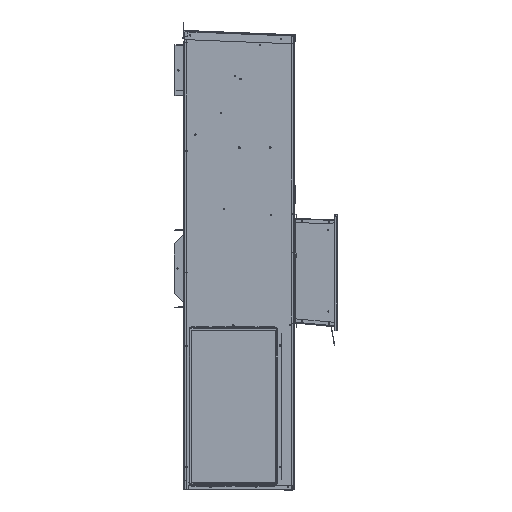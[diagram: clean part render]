
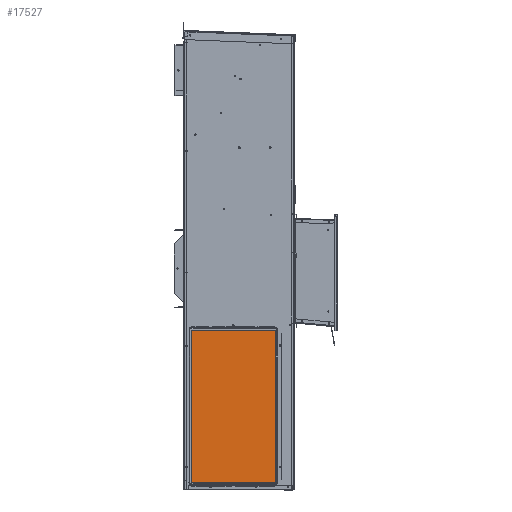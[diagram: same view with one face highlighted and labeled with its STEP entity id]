
A CAD part, top view. The second image highlights one B-rep face of the part: STEP entity #17527.
In plain terms, the highlighted planar face has unit normal (0, 0, 1).
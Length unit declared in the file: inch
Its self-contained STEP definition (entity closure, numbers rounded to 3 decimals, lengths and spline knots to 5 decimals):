
#88 = DIRECTION ( 'NONE',  ( 1., 0., 0. ) ) ;
#2740 = FACE_OUTER_BOUND ( 'NONE', #72039, .T. ) ;
#12731 = DIRECTION ( 'NONE',  ( 0., -1., 0. ) ) ;
#15960 = CARTESIAN_POINT ( 'NONE',  ( 27.9681, 35.985, 63.55488 ) ) ;
#17527 = ADVANCED_FACE ( 'NONE', ( #2740 ), #33483, .T. ) ;
#17881 = EDGE_CURVE ( 'NONE', #59396, #89247, #75282, .T. ) ;
#18738 = DIRECTION ( 'NONE',  ( -1., 0., 0. ) ) ;
#19075 = ORIENTED_EDGE ( 'NONE', *, *, #33392, .T. ) ;
#21647 = CARTESIAN_POINT ( 'NONE',  ( 40.9221, 12.53557, 63.55488 ) ) ;
#23926 = EDGE_CURVE ( 'NONE', #89247, #39882, #80704, .T. ) ;
#26555 = CARTESIAN_POINT ( 'NONE',  ( 40.9221, 35.985, 63.55488 ) ) ;
#28180 = DIRECTION ( 'NONE',  ( 0., 0., 1. ) ) ;
#30713 = AXIS2_PLACEMENT_3D ( 'NONE', #51500, #28180, #88 ) ;
#31900 = VECTOR ( 'NONE', #18738, 39.37008 ) ;
#33048 = VECTOR ( 'NONE', #52968, 39.37008 ) ;
#33392 = EDGE_CURVE ( 'NONE', #39882, #65014, #67697, .T. ) ;
#33483 = PLANE ( 'NONE',  #30713 ) ;
#33502 = CARTESIAN_POINT ( 'NONE',  ( 27.9681, 12.53557, 63.55488 ) ) ;
#38715 = ORIENTED_EDGE ( 'NONE', *, *, #17881, .T. ) ;
#39882 = VERTEX_POINT ( 'NONE', #21647 ) ;
#45997 = CARTESIAN_POINT ( 'NONE',  ( 40.9221, 35.985, 63.55488 ) ) ;
#50356 = LINE ( 'NONE', #60178, #31900 ) ;
#51500 = CARTESIAN_POINT ( 'NONE',  ( 27.9681, 12.53557, 63.55488 ) ) ;
#52968 = DIRECTION ( 'NONE',  ( 0., 1., 0. ) ) ;
#58236 = CARTESIAN_POINT ( 'NONE',  ( 27.9681, 35.985, 63.55488 ) ) ;
#59396 = VERTEX_POINT ( 'NONE', #15960 ) ;
#60178 = CARTESIAN_POINT ( 'NONE',  ( 27.9681, 35.985, 63.55488 ) ) ;
#64923 = EDGE_CURVE ( 'NONE', #65014, #59396, #50356, .T. ) ;
#65014 = VERTEX_POINT ( 'NONE', #26555 ) ;
#66001 = DIRECTION ( 'NONE',  ( 1., 0., 0. ) ) ;
#67571 = ORIENTED_EDGE ( 'NONE', *, *, #64923, .T. ) ;
#67697 = LINE ( 'NONE', #45997, #33048 ) ;
#68705 = VECTOR ( 'NONE', #12731, 39.37008 ) ;
#72039 = EDGE_LOOP ( 'NONE', ( #38715, #81162, #19075, #67571 ) ) ;
#72693 = CARTESIAN_POINT ( 'NONE',  ( 27.9681, 12.53557, 63.55488 ) ) ;
#75282 = LINE ( 'NONE', #58236, #68705 ) ;
#78526 = VECTOR ( 'NONE', #66001, 39.37008 ) ;
#80704 = LINE ( 'NONE', #72693, #78526 ) ;
#81162 = ORIENTED_EDGE ( 'NONE', *, *, #23926, .T. ) ;
#89247 = VERTEX_POINT ( 'NONE', #33502 ) ;
